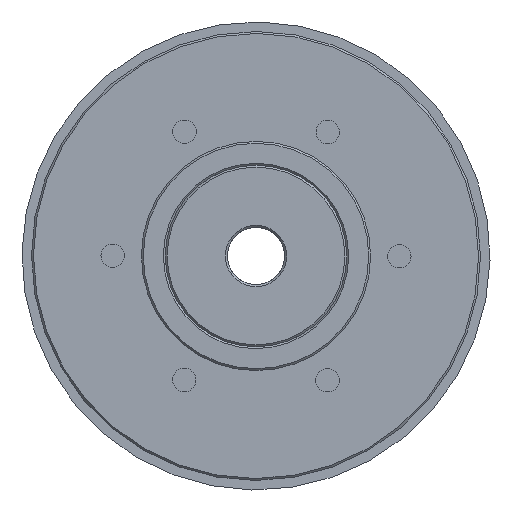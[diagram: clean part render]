
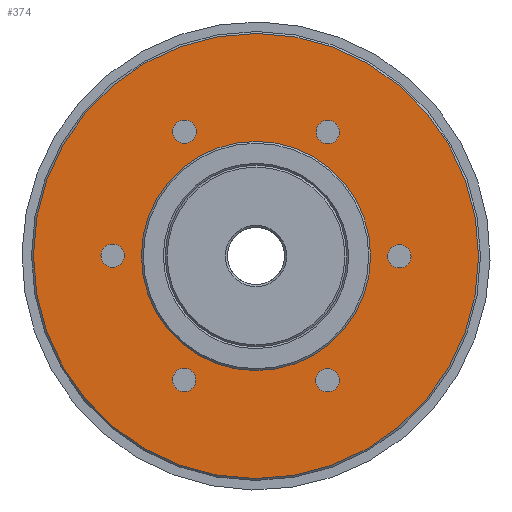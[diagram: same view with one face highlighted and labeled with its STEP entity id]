
A CAD part, left-side view. The second image highlights one B-rep face of the part: STEP entity #374.
In plain terms, the highlighted planar face has unit normal (-1, 0, 0).
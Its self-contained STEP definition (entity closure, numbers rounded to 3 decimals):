
#374 = ADVANCED_FACE( '', ( #762, #763, #764, #765, #766, #767, #768, #769 ), #770, .T. );
#762 = FACE_BOUND( '', #1326, .T. );
#763 = FACE_BOUND( '', #1327, .T. );
#764 = FACE_BOUND( '', #1328, .T. );
#765 = FACE_BOUND( '', #1329, .T. );
#766 = FACE_BOUND( '', #1330, .T. );
#767 = FACE_BOUND( '', #1331, .T. );
#768 = FACE_OUTER_BOUND( '', #1332, .T. );
#769 = FACE_BOUND( '', #1333, .T. );
#770 = PLANE( '', #1334 );
#1326 = EDGE_LOOP( '', ( #1833 ) );
#1327 = EDGE_LOOP( '', ( #1834 ) );
#1328 = EDGE_LOOP( '', ( #1835 ) );
#1329 = EDGE_LOOP( '', ( #1836 ) );
#1330 = EDGE_LOOP( '', ( #1837 ) );
#1331 = EDGE_LOOP( '', ( #1838 ) );
#1332 = EDGE_LOOP( '', ( #1839 ) );
#1333 = EDGE_LOOP( '', ( #1840 ) );
#1334 = AXIS2_PLACEMENT_3D( '', #1841, #1842, #1843 );
#1833 = ORIENTED_EDGE( '', *, *, #2745, .T. );
#1834 = ORIENTED_EDGE( '', *, *, #2746, .T. );
#1835 = ORIENTED_EDGE( '', *, *, #2747, .T. );
#1836 = ORIENTED_EDGE( '', *, *, #2748, .T. );
#1837 = ORIENTED_EDGE( '', *, *, #2749, .T. );
#1838 = ORIENTED_EDGE( '', *, *, #2750, .T. );
#1839 = ORIENTED_EDGE( '', *, *, #2751, .T. );
#1840 = ORIENTED_EDGE( '', *, *, #2752, .F. );
#1841 = CARTESIAN_POINT( '', ( 5.5, 0., 12. ) );
#1842 = DIRECTION( '', ( -1., 0., 0. ) );
#1843 = DIRECTION( '', ( 0., 0., 1. ) );
#2745 = EDGE_CURVE( '', #3071, #3071, #3072, .T. );
#2746 = EDGE_CURVE( '', #3073, #3073, #3074, .T. );
#2747 = EDGE_CURVE( '', #3075, #3075, #3076, .T. );
#2748 = EDGE_CURVE( '', #3077, #3077, #3078, .T. );
#2749 = EDGE_CURVE( '', #3079, #3079, #3080, .T. );
#2750 = EDGE_CURVE( '', #3081, #3081, #3082, .T. );
#2751 = EDGE_CURVE( '', #3083, #3083, #3084, .T. );
#2752 = EDGE_CURVE( '', #3085, #3085, #3086, .T. );
#3071 = VERTEX_POINT( '', #3548 );
#3072 = CIRCLE( '', #3549, 1.23 );
#3073 = VERTEX_POINT( '', #3550 );
#3074 = CIRCLE( '', #3551, 1.23 );
#3075 = VERTEX_POINT( '', #3552 );
#3076 = CIRCLE( '', #3553, 1.23 );
#3077 = VERTEX_POINT( '', #3554 );
#3078 = CIRCLE( '', #3555, 1.23 );
#3079 = VERTEX_POINT( '', #3556 );
#3080 = CIRCLE( '', #3557, 1.23 );
#3081 = VERTEX_POINT( '', #3558 );
#3082 = CIRCLE( '', #3559, 1.23 );
#3083 = VERTEX_POINT( '', #3560 );
#3084 = CIRCLE( '', #3561, 23.3 );
#3085 = VERTEX_POINT( '', #3562 );
#3086 = CIRCLE( '', #3563, 12. );
#3548 = CARTESIAN_POINT( '', ( 5.5, 14.055, 8.115 ) );
#3549 = AXIS2_PLACEMENT_3D( '', #4277, #4278, #4279 );
#3550 = CARTESIAN_POINT( '', ( 5.5, 14.055, -8.115 ) );
#3551 = AXIS2_PLACEMENT_3D( '', #4280, #4281, #4282 );
#3552 = CARTESIAN_POINT( '', ( 5.5, 0., -16.23 ) );
#3553 = AXIS2_PLACEMENT_3D( '', #4283, #4284, #4285 );
#3554 = CARTESIAN_POINT( '', ( 5.5, -14.055, -8.115 ) );
#3555 = AXIS2_PLACEMENT_3D( '', #4286, #4287, #4288 );
#3556 = CARTESIAN_POINT( '', ( 5.5, -14.055, 8.115 ) );
#3557 = AXIS2_PLACEMENT_3D( '', #4289, #4290, #4291 );
#3558 = CARTESIAN_POINT( '', ( 5.5, 0., 16.23 ) );
#3559 = AXIS2_PLACEMENT_3D( '', #4292, #4293, #4294 );
#3560 = CARTESIAN_POINT( '', ( 5.5, 0., 23.3 ) );
#3561 = AXIS2_PLACEMENT_3D( '', #4295, #4296, #4297 );
#3562 = CARTESIAN_POINT( '', ( 5.5, 0., 12. ) );
#3563 = AXIS2_PLACEMENT_3D( '', #4298, #4299, #4300 );
#4277 = CARTESIAN_POINT( '', ( 5.5, 12.99, 7.5 ) );
#4278 = DIRECTION( '', ( 1., 0., 0. ) );
#4279 = DIRECTION( '', ( 0., 0.866, 0.5 ) );
#4280 = CARTESIAN_POINT( '', ( 5.5, 12.99, -7.5 ) );
#4281 = DIRECTION( '', ( 1., 0., 0. ) );
#4282 = DIRECTION( '', ( 0., 0.866, -0.5 ) );
#4283 = CARTESIAN_POINT( '', ( 5.5, 0., -15. ) );
#4284 = DIRECTION( '', ( 1., 0., 0. ) );
#4285 = DIRECTION( '', ( 0., 0., -1. ) );
#4286 = CARTESIAN_POINT( '', ( 5.5, -12.99, -7.5 ) );
#4287 = DIRECTION( '', ( 1., 0., 0. ) );
#4288 = DIRECTION( '', ( 0., -0.866, -0.5 ) );
#4289 = CARTESIAN_POINT( '', ( 5.5, -12.99, 7.5 ) );
#4290 = DIRECTION( '', ( 1., 0., 0. ) );
#4291 = DIRECTION( '', ( 0., -0.866, 0.5 ) );
#4292 = CARTESIAN_POINT( '', ( 5.5, 0., 15. ) );
#4293 = DIRECTION( '', ( 1., 0., 0. ) );
#4294 = DIRECTION( '', ( 0., 0., 1. ) );
#4295 = CARTESIAN_POINT( '', ( 5.5, 0., 0. ) );
#4296 = DIRECTION( '', ( -1., 0., 0. ) );
#4297 = DIRECTION( '', ( 0., 0., 1. ) );
#4298 = CARTESIAN_POINT( '', ( 5.5, 0., 0. ) );
#4299 = DIRECTION( '', ( -1., 0., 0. ) );
#4300 = DIRECTION( '', ( 0., 0., 1. ) );
